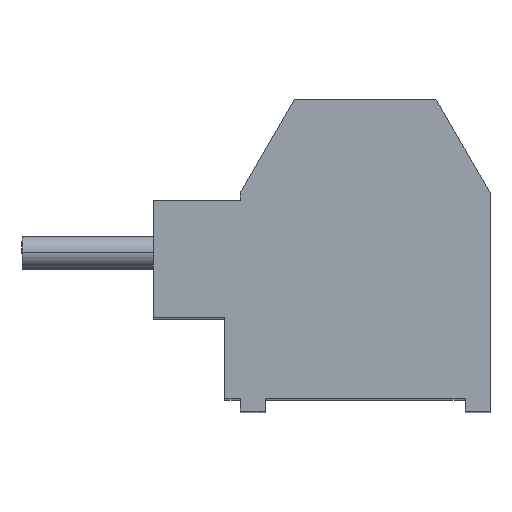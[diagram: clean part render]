
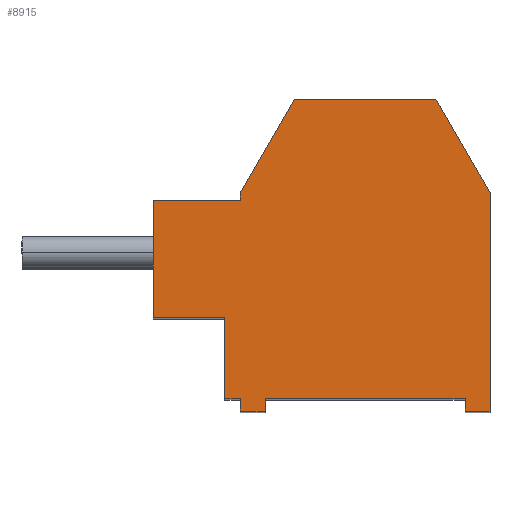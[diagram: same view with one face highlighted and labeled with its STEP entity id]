
A CAD part, top view. The second image highlights one B-rep face of the part: STEP entity #8915.
In plain terms, the highlighted planar face has unit normal (0, 0, 1).
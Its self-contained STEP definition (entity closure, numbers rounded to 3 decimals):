
#7461 = VERTEX_POINT ( 'NONE', #14228 ) ;
#7821 = EDGE_LOOP ( 'NONE', ( #8971, #8972, #8973, #8976, #8979, #8981, #8982, #8961, #8962, #8963, #8964, #8965, #8966, #8967, #8968, #8969 ) ) ;
#8278 = VERTEX_POINT ( 'NONE', #15274 ) ;
#8288 = VERTEX_POINT ( 'NONE', #15253 ) ;
#8290 = EDGE_CURVE ( 'NONE', #8304, #8288, #15252, .T. ) ;
#8304 = VERTEX_POINT ( 'NONE', #15293 ) ;
#8306 = EDGE_CURVE ( 'NONE', #8278, #8304, #15292, .T. ) ;
#8352 = VERTEX_POINT ( 'NONE', #15396 ) ;
#8354 = EDGE_CURVE ( 'NONE', #8355, #8352, #15395, .T. ) ;
#8355 = VERTEX_POINT ( 'NONE', #15391 ) ;
#8741 = VERTEX_POINT ( 'NONE', #15889 ) ;
#8743 = EDGE_CURVE ( 'NONE', #8288, #8741, #15888, .T. ) ;
#8759 = EDGE_CURVE ( 'NONE', #8760, #8355, #15856, .T. ) ;
#8760 = VERTEX_POINT ( 'NONE', #15921 ) ;
#8777 = EDGE_CURVE ( 'NONE', #8778, #8278, #15893, .T. ) ;
#8778 = VERTEX_POINT ( 'NONE', #15953 ) ;
#8843 = EDGE_CURVE ( 'NONE', #8857, #7461, #15989, .T. ) ;
#8857 = VERTEX_POINT ( 'NONE', #15964 ) ;
#8859 = EDGE_CURVE ( 'NONE', #8352, #8857, #15963, .T. ) ;
#8866 = EDGE_CURVE ( 'NONE', #8891, #8778, #16016, .T. ) ;
#8875 = EDGE_CURVE ( 'NONE', #8741, #8760, #15998, .T. ) ;
#8881 = VERTEX_POINT ( 'NONE', #16050 ) ;
#8883 = EDGE_CURVE ( 'NONE', #8899, #8881, #16049, .T. ) ;
#8891 = VERTEX_POINT ( 'NONE', #16034 ) ;
#8899 = VERTEX_POINT ( 'NONE', #16086 ) ;
#8901 = EDGE_CURVE ( 'NONE', #7461, #8899, #16085, .T. ) ;
#8915 = ADVANCED_FACE ( 'NONE', ( #16119 ), #16118, .T. ) ;
#8934 = VERTEX_POINT ( 'NONE', #16142 ) ;
#8936 = EDGE_CURVE ( 'NONE', #8881, #8934, #16141, .T. ) ;
#8961 = ORIENTED_EDGE ( 'NONE', *, *, #8306, .T. ) ;
#8962 = ORIENTED_EDGE ( 'NONE', *, *, #8290, .T. ) ;
#8963 = ORIENTED_EDGE ( 'NONE', *, *, #8743, .T. ) ;
#8964 = ORIENTED_EDGE ( 'NONE', *, *, #8875, .T. ) ;
#8965 = ORIENTED_EDGE ( 'NONE', *, *, #8759, .T. ) ;
#8966 = ORIENTED_EDGE ( 'NONE', *, *, #8354, .T. ) ;
#8967 = ORIENTED_EDGE ( 'NONE', *, *, #8859, .T. ) ;
#8968 = ORIENTED_EDGE ( 'NONE', *, *, #8843, .T. ) ;
#8969 = ORIENTED_EDGE ( 'NONE', *, *, #8901, .T. ) ;
#8971 = ORIENTED_EDGE ( 'NONE', *, *, #8883, .T. ) ;
#8972 = ORIENTED_EDGE ( 'NONE', *, *, #8936, .T. ) ;
#8973 = ORIENTED_EDGE ( 'NONE', *, *, #8974, .T. ) ;
#8974 = EDGE_CURVE ( 'NONE', #8934, #8975, #16164, .T. ) ;
#8975 = VERTEX_POINT ( 'NONE', #16160 ) ;
#8976 = ORIENTED_EDGE ( 'NONE', *, *, #8977, .T. ) ;
#8977 = EDGE_CURVE ( 'NONE', #8975, #8978, #16159, .T. ) ;
#8978 = VERTEX_POINT ( 'NONE', #16155 ) ;
#8979 = ORIENTED_EDGE ( 'NONE', *, *, #8980, .T. ) ;
#8980 = EDGE_CURVE ( 'NONE', #8978, #8891, #16154, .T. ) ;
#8981 = ORIENTED_EDGE ( 'NONE', *, *, #8866, .T. ) ;
#8982 = ORIENTED_EDGE ( 'NONE', *, *, #8777, .T. ) ;
#14228 = CARTESIAN_POINT ( 'NONE',  ( 3.341, 4.596, 0. ) ) ;
#15249 = DIRECTION ( 'NONE',  ( 1., 0., 0. ) ) ;
#15250 = VECTOR ( 'NONE', #15249, 1000. ) ;
#15251 = CARTESIAN_POINT ( 'NONE',  ( -2.527, -5.404, 0. ) ) ;
#15252 = LINE ( 'NONE', #15251, #15250 ) ;
#15253 = CARTESIAN_POINT ( 'NONE',  ( -2.127, -5.404, 0. ) ) ;
#15274 = CARTESIAN_POINT ( 'NONE',  ( -2.927, -5.004, 0. ) ) ;
#15289 = DIRECTION ( 'NONE',  ( 0., -1., 0. ) ) ;
#15290 = VECTOR ( 'NONE', #15289, 1000. ) ;
#15291 = CARTESIAN_POINT ( 'NONE',  ( -2.927, -5.204, 0. ) ) ;
#15292 = LINE ( 'NONE', #15291, #15290 ) ;
#15293 = CARTESIAN_POINT ( 'NONE',  ( -2.927, -5.404, 0. ) ) ;
#15391 = CARTESIAN_POINT ( 'NONE',  ( 4.273, -5.404, 0. ) ) ;
#15392 = DIRECTION ( 'NONE',  ( 1., 0., 0. ) ) ;
#15393 = VECTOR ( 'NONE', #15392, 1000. ) ;
#15394 = CARTESIAN_POINT ( 'NONE',  ( 4.673, -5.404, 0. ) ) ;
#15395 = LINE ( 'NONE', #15394, #15393 ) ;
#15396 = CARTESIAN_POINT ( 'NONE',  ( 5.073, -5.404, 0. ) ) ;
#15853 = DIRECTION ( 'NONE',  ( 0., -1., 0. ) ) ;
#15854 = VECTOR ( 'NONE', #15853, 1000. ) ;
#15855 = CARTESIAN_POINT ( 'NONE',  ( 4.273, -5.204, 0. ) ) ;
#15856 = LINE ( 'NONE', #15855, #15854 ) ;
#15885 = DIRECTION ( 'NONE',  ( 0., 1., 0. ) ) ;
#15886 = VECTOR ( 'NONE', #15885, 1000. ) ;
#15887 = CARTESIAN_POINT ( 'NONE',  ( -2.127, -5.204, 0. ) ) ;
#15888 = LINE ( 'NONE', #15887, #15886 ) ;
#15889 = CARTESIAN_POINT ( 'NONE',  ( -2.127, -5.004, 0. ) ) ;
#15890 = DIRECTION ( 'NONE',  ( 1., 0., 0. ) ) ;
#15891 = VECTOR ( 'NONE', #15890, 1000. ) ;
#15892 = CARTESIAN_POINT ( 'NONE',  ( -3.177, -5.004, 0. ) ) ;
#15893 = LINE ( 'NONE', #15892, #15891 ) ;
#15921 = CARTESIAN_POINT ( 'NONE',  ( 4.273, -5.004, 0. ) ) ;
#15953 = CARTESIAN_POINT ( 'NONE',  ( -3.427, -5.004, 0. ) ) ;
#15960 = DIRECTION ( 'NONE',  ( 0., 1., 0. ) ) ;
#15961 = VECTOR ( 'NONE', #15960, 1000. ) ;
#15962 = CARTESIAN_POINT ( 'NONE',  ( 5.073, -0.404, 0. ) ) ;
#15963 = LINE ( 'NONE', #15962, #15961 ) ;
#15964 = CARTESIAN_POINT ( 'NONE',  ( 5.073, 1.596, 0. ) ) ;
#15986 = DIRECTION ( 'NONE',  ( -0.5, 0.866, 0. ) ) ;
#15987 = VECTOR ( 'NONE', #15986, 1000. ) ;
#15988 = CARTESIAN_POINT ( 'NONE',  ( 5.073, 1.596, 0. ) ) ;
#15989 = LINE ( 'NONE', #15988, #15987 ) ;
#15995 = DIRECTION ( 'NONE',  ( 1., 0., 0. ) ) ;
#15996 = VECTOR ( 'NONE', #15995, 1000. ) ;
#15997 = CARTESIAN_POINT ( 'NONE',  ( -0.327, -5.004, 0. ) ) ;
#15998 = LINE ( 'NONE', #15997, #15996 ) ;
#16013 = DIRECTION ( 'NONE',  ( 0., -1., 0. ) ) ;
#16014 = VECTOR ( 'NONE', #16013, 1000. ) ;
#16015 = CARTESIAN_POINT ( 'NONE',  ( -3.427, -0.404, 0. ) ) ;
#16016 = LINE ( 'NONE', #16015, #16014 ) ;
#16034 = CARTESIAN_POINT ( 'NONE',  ( -3.427, -2.404, 0. ) ) ;
#16046 = DIRECTION ( 'NONE',  ( -0.5, -0.866, 0. ) ) ;
#16047 = VECTOR ( 'NONE', #16046, 1000. ) ;
#16048 = CARTESIAN_POINT ( 'NONE',  ( -1.195, 4.596, 0. ) ) ;
#16049 = LINE ( 'NONE', #16048, #16047 ) ;
#16050 = CARTESIAN_POINT ( 'NONE',  ( -2.927, 1.596, 0. ) ) ;
#16082 = DIRECTION ( 'NONE',  ( -1., 0., 0. ) ) ;
#16083 = VECTOR ( 'NONE', #16082, 1000. ) ;
#16084 = CARTESIAN_POINT ( 'NONE',  ( -0.327, 4.596, 0. ) ) ;
#16085 = LINE ( 'NONE', #16084, #16083 ) ;
#16086 = CARTESIAN_POINT ( 'NONE',  ( -1.195, 4.596, 0. ) ) ;
#16114 = DIRECTION ( 'NONE',  ( 1., 0., 0. ) ) ;
#16115 = DIRECTION ( 'NONE',  ( 0., 0., 1. ) ) ;
#16116 = CARTESIAN_POINT ( 'NONE',  ( -5.727, -5.404, 0. ) ) ;
#16117 = AXIS2_PLACEMENT_3D ( 'NONE', #16116, #16115, #16114 ) ;
#16118 = PLANE ( 'NONE',  #16117 ) ;
#16119 = FACE_OUTER_BOUND ( 'NONE', #7821, .T. ) ;
#16138 = DIRECTION ( 'NONE',  ( 0., -1., 0. ) ) ;
#16139 = VECTOR ( 'NONE', #16138, 1000. ) ;
#16140 = CARTESIAN_POINT ( 'NONE',  ( -2.927, -0.404, 0. ) ) ;
#16141 = LINE ( 'NONE', #16140, #16139 ) ;
#16142 = CARTESIAN_POINT ( 'NONE',  ( -2.927, 1.346, 0. ) ) ;
#16153 = CARTESIAN_POINT ( 'NONE',  ( -4.577, -2.404, 0. ) ) ;
#16154 = LINE ( 'NONE', #16153, #16217 ) ;
#16155 = CARTESIAN_POINT ( 'NONE',  ( -5.727, -2.404, 0. ) ) ;
#16156 = DIRECTION ( 'NONE',  ( 0., -1., 0. ) ) ;
#16157 = VECTOR ( 'NONE', #16156, 1000. ) ;
#16158 = CARTESIAN_POINT ( 'NONE',  ( -5.727, -0.529, 0. ) ) ;
#16159 = LINE ( 'NONE', #16158, #16157 ) ;
#16160 = CARTESIAN_POINT ( 'NONE',  ( -5.727, 1.346, 0. ) ) ;
#16161 = DIRECTION ( 'NONE',  ( -1., 0., 0. ) ) ;
#16162 = VECTOR ( 'NONE', #16161, 1000. ) ;
#16163 = CARTESIAN_POINT ( 'NONE',  ( -4.327, 1.346, 0. ) ) ;
#16164 = LINE ( 'NONE', #16163, #16162 ) ;
#16216 = DIRECTION ( 'NONE',  ( 1., 0., 0. ) ) ;
#16217 = VECTOR ( 'NONE', #16216, 1000. ) ;
